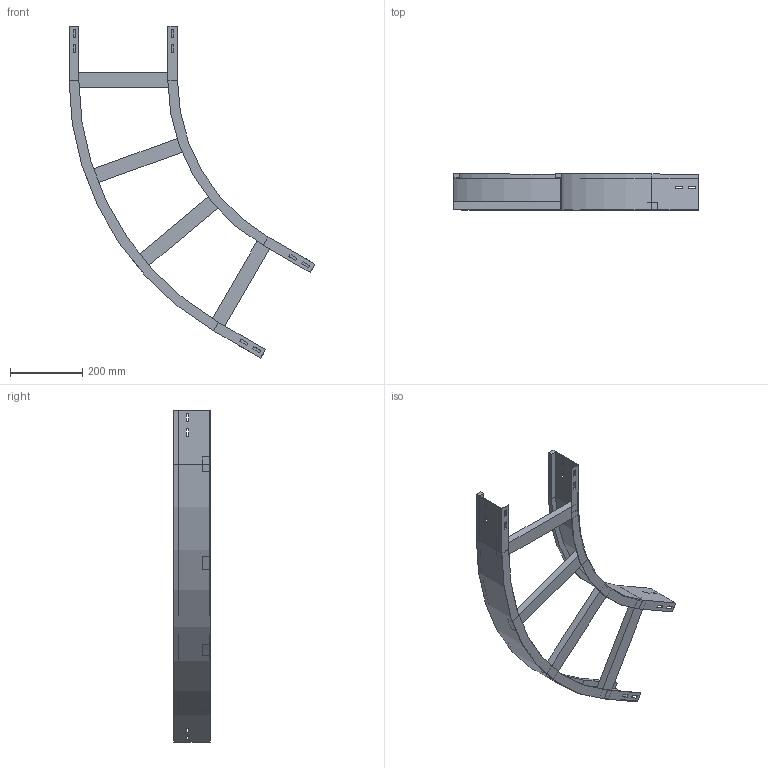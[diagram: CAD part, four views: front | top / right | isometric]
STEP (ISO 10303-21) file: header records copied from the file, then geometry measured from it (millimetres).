
FILE_DESCRIPTION (( 'STEP AP214' ), '1' );
FILE_NAME ('13B5D300.step', '2025-02-21T15:17:07', ( '' ), ( '' ), 'SwSTEP 2.0', 'SolidWorks 2023', '' );
FILE_SCHEMA (( 'AUTOMOTIVE_DESIGN' ));
Length unit declared in the file: millimetre
Products named in the file (4): TRAVERSINO_300; A2_LONGH.INTERNO 60°_H100_R500; 13B5D300; A2_LONGH.ESTERNO 60°_H100_R500+300
Assembly tree (6 placements, depth 2):
  13B5D300
    A2_LONGH.INTERNO 60°_H100_R500
    A2_LONGH.ESTERNO 60°_H100_R500+300
    TRAVERSINO_300  x4
Bounding box: 679.9 x 100 x 917.82 mm (x, y, z)
Volume: 1821031.7 mm3; surface area: 709388 mm2
Topology: 6 solids, 6 shells, 140 faces, 352 edges, 224 vertices
Faces by surface type: plane 132, cylinder 8
Entity records: 3829 total; most frequent: CARTESIAN_POINT 647, ORIENTED_EDGE 632, DIRECTION 594, EDGE_CURVE 316, VECTOR 300, LINE 300, VERTEX_POINT 200, EDGE_LOOP 154
